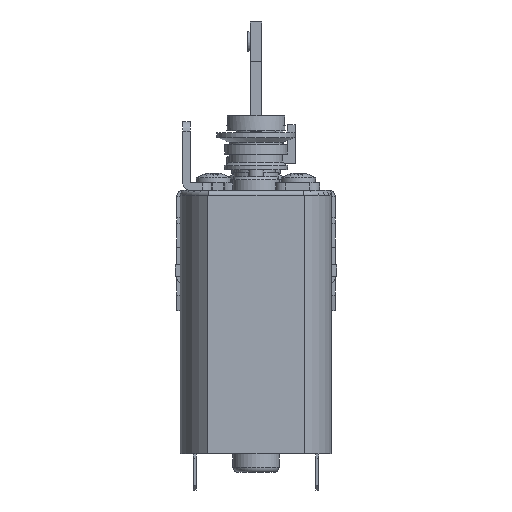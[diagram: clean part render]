
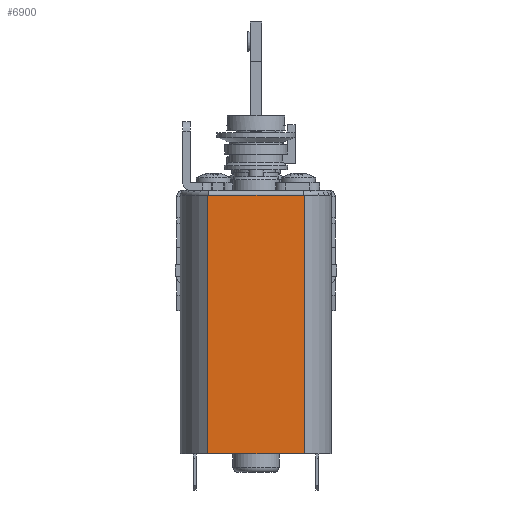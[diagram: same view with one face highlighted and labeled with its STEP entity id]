
A CAD part, left-side view. The second image highlights one B-rep face of the part: STEP entity #6900.
In plain terms, the highlighted planar face has unit normal (-1, 0, 0).
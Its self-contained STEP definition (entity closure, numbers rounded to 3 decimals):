
#5226 = VERTEX_POINT('',#5227);
#5227 = CARTESIAN_POINT('',(-80.5,-4.905,-8.1));
#5275 = EDGE_CURVE('',#5226,#5276,#5278,.T.);
#5276 = VERTEX_POINT('',#5277);
#5277 = CARTESIAN_POINT('',(-80.5,4.905,-8.1));
#5278 = LINE('',#5279,#5280);
#5279 = CARTESIAN_POINT('',(-80.5,-4.905,-8.1));
#5280 = VECTOR('',#5281,1.);
#5281 = DIRECTION('',(0.,1.,0.));
#6863 = VERTEX_POINT('',#6864);
#6864 = CARTESIAN_POINT('',(-80.5,-4.905,-34.5));
#6890 = EDGE_CURVE('',#6863,#5226,#6891,.T.);
#6891 = LINE('',#6892,#6893);
#6892 = CARTESIAN_POINT('',(-80.5,-4.905,-7.6));
#6893 = VECTOR('',#6894,1.);
#6894 = DIRECTION('',(0.,0.,1.));
#6900 = ADVANCED_FACE('',(#6901),#6919,.F.);
#6901 = FACE_BOUND('',#6902,.F.);
#6902 = EDGE_LOOP('',(#6903,#6911,#6912,#6913));
#6903 = ORIENTED_EDGE('',*,*,#6904,.T.);
#6904 = EDGE_CURVE('',#6905,#5276,#6907,.T.);
#6905 = VERTEX_POINT('',#6906);
#6906 = CARTESIAN_POINT('',(-80.5,4.905,-34.5));
#6907 = LINE('',#6908,#6909);
#6908 = CARTESIAN_POINT('',(-80.5,4.905,-7.6));
#6909 = VECTOR('',#6910,1.);
#6910 = DIRECTION('',(0.,0.,1.));
#6911 = ORIENTED_EDGE('',*,*,#5275,.F.);
#6912 = ORIENTED_EDGE('',*,*,#6890,.F.);
#6913 = ORIENTED_EDGE('',*,*,#6914,.T.);
#6914 = EDGE_CURVE('',#6863,#6905,#6915,.T.);
#6915 = LINE('',#6916,#6917);
#6916 = CARTESIAN_POINT('',(-80.5,6.,-34.5));
#6917 = VECTOR('',#6918,1.);
#6918 = DIRECTION('',(0.,1.,0.));
#6919 = PLANE('',#6920);
#6920 = AXIS2_PLACEMENT_3D('',#6921,#6922,#6923);
#6921 = CARTESIAN_POINT('',(-80.5,12.,-40.6));
#6922 = DIRECTION('',(1.,0.,0.));
#6923 = DIRECTION('',(0.,0.,1.));
